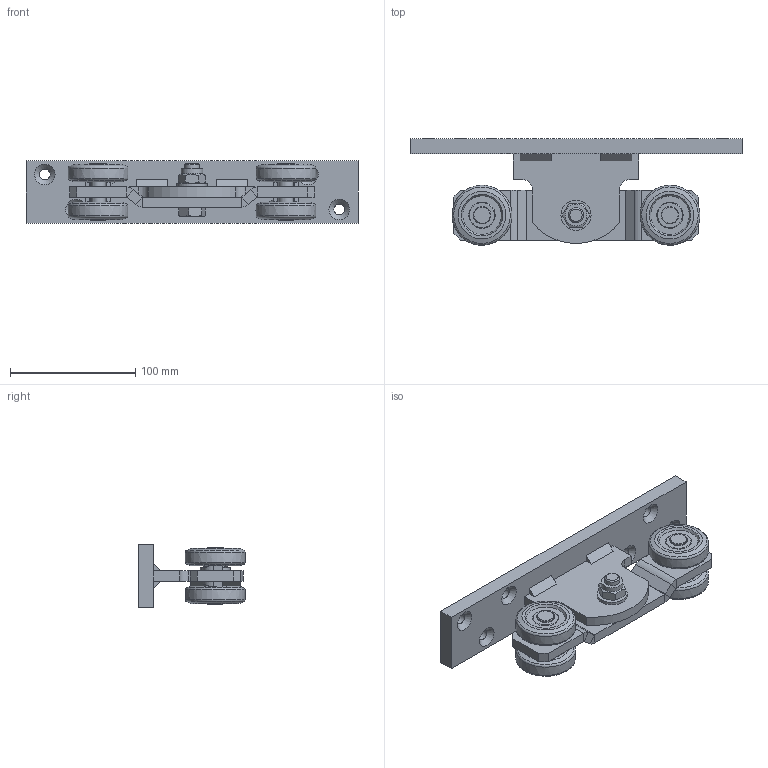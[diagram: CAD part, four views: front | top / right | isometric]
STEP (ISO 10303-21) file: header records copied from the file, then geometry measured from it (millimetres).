
FILE_DESCRIPTION(/* description */ ('Doppelrolle mit Flansch Nr.3'),/* implementation_level */ '2;1');
FILE_NAME(/* name */ 'Q:\sge-ma\Produktmanagement-STB\STB\Workspace\TraceParts\Doppelrolle mit Flanschpendel\010336996.stp',/* time_stamp */ '2018-02-22T16:21:31+01:00',/* author */ ('avschreier'),/* organization */ (''),/* preprocessor_version */ 'ST-DEVELOPER v16.1',/* originating_system */ 'Autodesk Inventor 2016',/* authorisation */ '');
FILE_SCHEMA (('CONFIG_CONTROL_DESIGN'));
Length unit declared in the file: millimetre
Products named in the file (11): 010336996_Schweißnähte; 000302102; 337000119; 000302010; 000303237; 336290030; 000304012; DIN_EN_ISO_7090-13_en; DIN_EN_ISO_4017-M12x35_en; DIN_EN_ISO_7040-M12_en; 010336996
Assembly tree (17 placements, depth 2):
  010336996
    010336996_Schweißnähte
    000302102
    337000119
    000302010
    000303237  x4
    336290030  x4
    000304012  x2
    DIN_EN_ISO_7090-13_en
    DIN_EN_ISO_4017-M12x35_en
    DIN_EN_ISO_7040-M12_en
Bounding box: 265 x 84.93 x 50 mm (x, y, z)
Volume: 356934.9 mm3; surface area: 103802 mm2
Topology: 20 solids, 20 shells, 382 faces, 873 edges, 550 vertices
Faces by surface type: plane 230, cylinder 54, cone 54, bspline 36, torus 8
Full cylindrical faces by diameter (mm): 8.5 x6, 10.106 x1, 11.053 x1, 12 x7, 12.1 x1, 12.3 x1, 13 x1, 14 x2, 17.2 x1, 17.4 x1, 24 x1
Entity records: 6838 total; most frequent: CARTESIAN_POINT 2109, DIRECTION 956, ORIENTED_EDGE 836, EDGE_CURVE 418, AXIS2_PLACEMENT_3D 352, VERTEX_POINT 285, EDGE_LOOP 283, LINE 252
